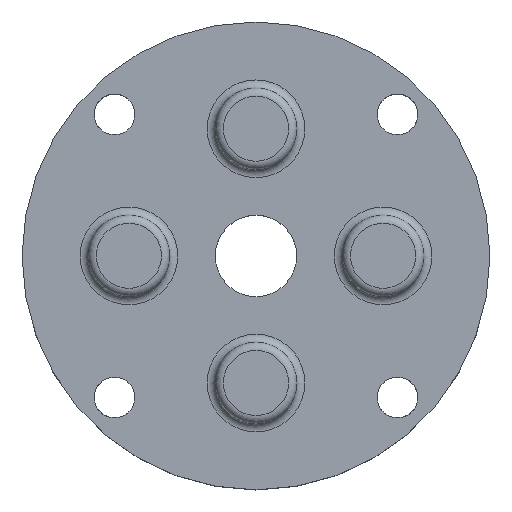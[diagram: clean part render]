
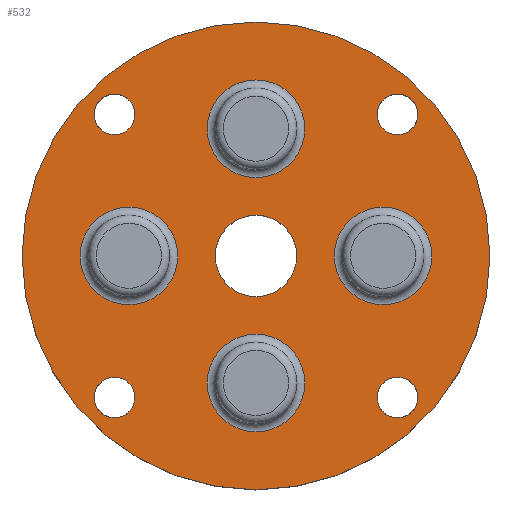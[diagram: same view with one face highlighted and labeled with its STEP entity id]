
A CAD part, top view. The second image highlights one B-rep face of the part: STEP entity #532.
In plain terms, the highlighted planar face has unit normal (0, 0, 1).
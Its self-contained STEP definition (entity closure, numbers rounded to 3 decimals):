
#107=CARTESIAN_POINT('',(2.,0.,5.));
#108=VERTEX_POINT('',#107);
#109=CARTESIAN_POINT('',(0.,0.,5.));
#110=DIRECTION('',(1.,0.,-0.));
#111=DIRECTION('',(0.,0.,-1.));
#112=AXIS2_PLACEMENT_3D('',#109,#111,#110);
#113=CIRCLE('',#112,2.);
#114=EDGE_CURVE('',#108,#108,#113,.T.);
#157=CARTESIAN_POINT('',(11.5,0.,5.));
#158=VERTEX_POINT('',#157);
#159=CARTESIAN_POINT('',(0.,0.,5.));
#160=DIRECTION('',(1.,-0.,-0.));
#161=DIRECTION('',(0.,-0.,1.));
#162=AXIS2_PLACEMENT_3D('',#159,#161,#160);
#163=CIRCLE('',#162,11.5);
#164=EDGE_CURVE('',#158,#158,#163,.T.);
#190=CARTESIAN_POINT('',(-5.957,-6.957,5.));
#191=VERTEX_POINT('',#190);
#192=CARTESIAN_POINT('',(-6.957,-6.957,5.));
#193=DIRECTION('',(1.,0.,-0.));
#194=DIRECTION('',(0.,0.,1.));
#195=AXIS2_PLACEMENT_3D('',#192,#194,#193);
#196=CIRCLE('',#195,1.);
#197=EDGE_CURVE('',#191,#191,#196,.T.);
#246=CARTESIAN_POINT('',(7.957,-6.957,5.));
#247=VERTEX_POINT('',#246);
#248=CARTESIAN_POINT('',(6.957,-6.957,5.));
#249=DIRECTION('',(1.,-0.,-0.));
#250=DIRECTION('',(0.,-0.,1.));
#251=AXIS2_PLACEMENT_3D('',#248,#250,#249);
#252=CIRCLE('',#251,1.);
#253=EDGE_CURVE('',#247,#247,#252,.T.);
#314=CARTESIAN_POINT('',(7.957,6.957,5.));
#315=VERTEX_POINT('',#314);
#316=CARTESIAN_POINT('',(6.957,6.957,5.));
#317=DIRECTION('',(1.,0.,-0.));
#318=DIRECTION('',(0.,-0.,1.));
#319=AXIS2_PLACEMENT_3D('',#316,#318,#317);
#320=CIRCLE('',#319,1.);
#321=EDGE_CURVE('',#315,#315,#320,.T.);
#382=CARTESIAN_POINT('',(-5.957,6.957,5.));
#383=VERTEX_POINT('',#382);
#384=CARTESIAN_POINT('',(-6.957,6.957,5.));
#385=DIRECTION('',(1.,-0.,-0.));
#386=DIRECTION('',(0.,-0.,1.));
#387=AXIS2_PLACEMENT_3D('',#384,#386,#385);
#388=CIRCLE('',#387,1.);
#389=EDGE_CURVE('',#383,#383,#388,.T.);
#465=CARTESIAN_POINT('',(-3.081,0.,5.));
#466=DIRECTION('',(1.,0.,0.));
#467=DIRECTION('',(0.,0.,1.));
#468=AXIS2_PLACEMENT_3D('',#465,#467,#466);
#469=PLANE('',#468);
#470=ORIENTED_EDGE('',*,*,#164,.T.);
#471=EDGE_LOOP('',(#470));
#472=FACE_OUTER_BOUND('',#471,.T.);
#473=ORIENTED_EDGE('',*,*,#114,.T.);
#474=EDGE_LOOP('',(#473));
#475=FACE_BOUND('',#474,.T.);
#476=ORIENTED_EDGE('',*,*,#389,.F.);
#477=EDGE_LOOP('',(#476));
#478=FACE_BOUND('',#477,.T.);
#479=ORIENTED_EDGE('',*,*,#321,.F.);
#480=EDGE_LOOP('',(#479));
#481=FACE_BOUND('',#480,.T.);
#482=ORIENTED_EDGE('',*,*,#197,.F.);
#483=EDGE_LOOP('',(#482));
#484=FACE_BOUND('',#483,.T.);
#485=ORIENTED_EDGE('',*,*,#253,.F.);
#486=EDGE_LOOP('',(#485));
#487=FACE_BOUND('',#486,.T.);
#488=CARTESIAN_POINT('',(8.65,0.,5.));
#489=VERTEX_POINT('',#488);
#490=CARTESIAN_POINT('',(6.25,0.,5.));
#491=DIRECTION('',(1.,0.,-0.));
#492=DIRECTION('',(0.,0.,-1.));
#493=AXIS2_PLACEMENT_3D('',#490,#492,#491);
#494=CIRCLE('',#493,2.4);
#495=EDGE_CURVE('',#489,#489,#494,.T.);
#496=ORIENTED_EDGE('E45',*,*,#495,.T.);
#497=EDGE_LOOP('',(#496));
#498=FACE_BOUND('',#497,.T.);
#499=CARTESIAN_POINT('',(-3.85,0.,5.));
#500=VERTEX_POINT('',#499);
#501=CARTESIAN_POINT('',(-6.25,0.,5.));
#502=DIRECTION('',(1.,0.,-0.));
#503=DIRECTION('',(0.,-0.,-1.));
#504=AXIS2_PLACEMENT_3D('',#501,#503,#502);
#505=CIRCLE('',#504,2.4);
#506=EDGE_CURVE('',#500,#500,#505,.T.);
#507=ORIENTED_EDGE('E51',*,*,#506,.T.);
#508=EDGE_LOOP('',(#507));
#509=FACE_BOUND('',#508,.T.);
#510=CARTESIAN_POINT('',(2.4,6.25,5.));
#511=VERTEX_POINT('',#510);
#512=CARTESIAN_POINT('',(0.,6.25,5.));
#513=DIRECTION('',(1.,0.,-0.));
#514=DIRECTION('',(0.,-0.,-1.));
#515=AXIS2_PLACEMENT_3D('',#512,#514,#513);
#516=CIRCLE('',#515,2.4);
#517=EDGE_CURVE('',#511,#511,#516,.T.);
#518=ORIENTED_EDGE('E57',*,*,#517,.T.);
#519=EDGE_LOOP('',(#518));
#520=FACE_BOUND('',#519,.T.);
#521=CARTESIAN_POINT('',(2.4,-6.25,5.));
#522=VERTEX_POINT('',#521);
#523=CARTESIAN_POINT('',(0.,-6.25,5.));
#524=DIRECTION('',(1.,0.,-0.));
#525=DIRECTION('',(0.,-0.,-1.));
#526=AXIS2_PLACEMENT_3D('',#523,#525,#524);
#527=CIRCLE('',#526,2.4);
#528=EDGE_CURVE('',#522,#522,#527,.T.);
#529=ORIENTED_EDGE('E63',*,*,#528,.T.);
#530=EDGE_LOOP('',(#529));
#531=FACE_BOUND('',#530,.T.);
#532=ADVANCED_FACE('F2',(#472,#475,#478,#481,#484,#487,#498,#509,#520,#531),#469,.T.);
